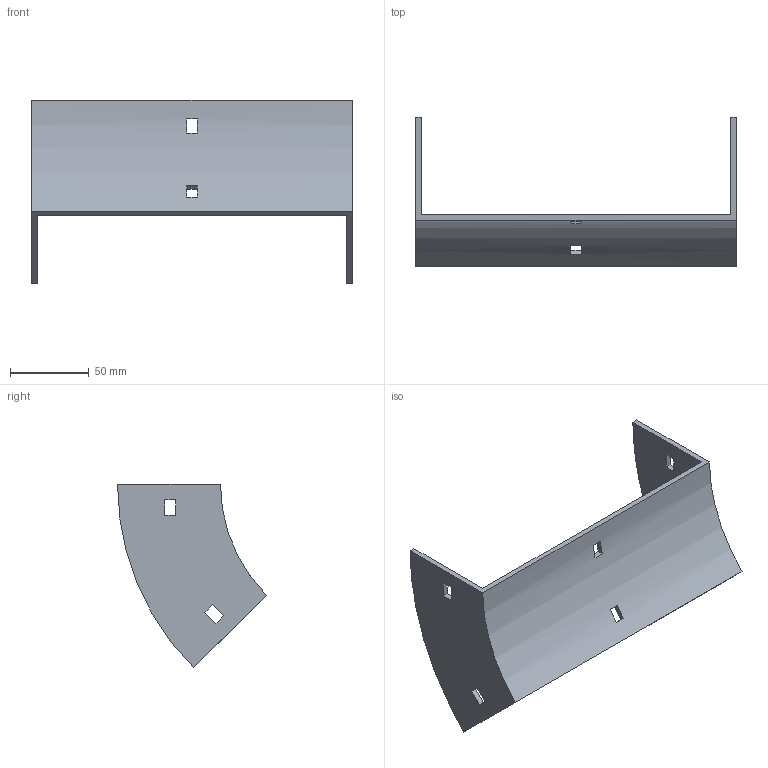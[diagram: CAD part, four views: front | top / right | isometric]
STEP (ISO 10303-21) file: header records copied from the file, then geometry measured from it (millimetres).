
FILE_DESCRIPTION (( 'STEP AP214' ), '1' );
FILE_NAME ('34B1H200.step', '2025-02-21T09:28:55', ( '' ), ( '' ), 'SwSTEP 2.0', 'SolidWorks 2023', '' );
FILE_SCHEMA (( 'AUTOMOTIVE_DESIGN' ));
Length unit declared in the file: millimetre
Products named in the file (1): 34B1H200
Bounding box: 204 x 94.79 x 117.03 mm (x, y, z)
Volume: 101509.7 mm3; surface area: 61897.9 mm2
Topology: 1 solids, 1 shells, 34 faces, 96 edges, 64 vertices
Faces by surface type: plane 30, cylinder 4
Entity records: 1143 total; most frequent: CARTESIAN_POINT 195, ORIENTED_EDGE 192, DIRECTION 182, EDGE_CURVE 96, LINE 80, VECTOR 80, VERTEX_POINT 64, AXIS2_PLACEMENT_3D 51
